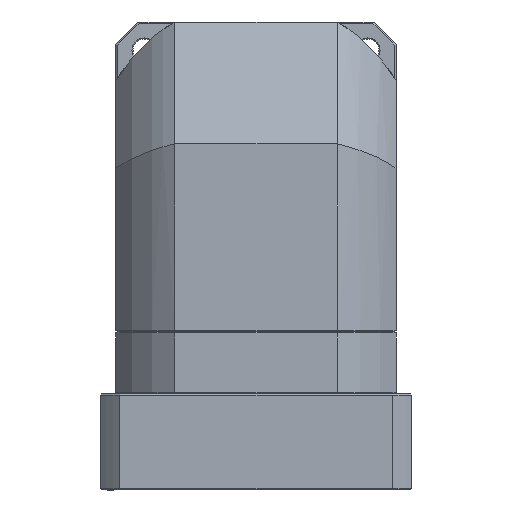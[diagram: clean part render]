
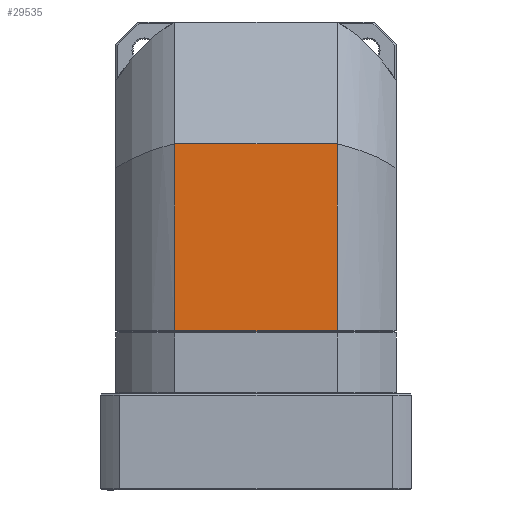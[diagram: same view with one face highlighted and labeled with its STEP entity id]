
A CAD part, front view. The second image highlights one B-rep face of the part: STEP entity #29535.
In plain terms, the highlighted planar face has unit normal (0, 1, 0).
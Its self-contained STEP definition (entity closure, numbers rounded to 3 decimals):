
#8407 = DIRECTION ( 'NONE',  ( 0., 0., -1. ) ) ;
#12672 = CARTESIAN_POINT ( 'NONE',  ( 0., -261.111, 7.5 ) ) ;
#14298 = EDGE_CURVE ( 'NONE', #61374, #15156, #84293, .T. ) ;
#15156 = VERTEX_POINT ( 'NONE', #56697 ) ;
#15171 = DIRECTION ( 'NONE',  ( 0., -1., 0. ) ) ;
#17880 = CARTESIAN_POINT ( 'NONE',  ( 33.407, -261.111, 7.5 ) ) ;
#18615 = ORIENTED_EDGE ( 'NONE', *, *, #53029, .T. ) ;
#21974 = EDGE_CURVE ( 'NONE', #99195, #91696, #86371, .T. ) ;
#25571 = CARTESIAN_POINT ( 'NONE',  ( 33.407, -261.111, -69.2 ) ) ;
#25607 = VECTOR ( 'NONE', #56122, 1000. ) ;
#29535 = ADVANCED_FACE ( 'NONE', ( #68342 ), #78190, .F. ) ;
#39132 = CARTESIAN_POINT ( 'NONE',  ( 33.407, -261.111, -30.62 ) ) ;
#40859 = CARTESIAN_POINT ( 'NONE',  ( -33.407, -261.111, 7.5 ) ) ;
#43420 = VECTOR ( 'NONE', #44181, 1000. ) ;
#44181 = DIRECTION ( 'NONE',  ( 1., 0., 0. ) ) ;
#44916 = EDGE_LOOP ( 'NONE', ( #77649, #91659, #95550, #18615 ) ) ;
#53029 = EDGE_CURVE ( 'NONE', #61374, #99195, #85513, .T. ) ;
#53313 = VECTOR ( 'NONE', #8407, 1000. ) ;
#56122 = DIRECTION ( 'NONE',  ( 0., 0., -1. ) ) ;
#56697 = CARTESIAN_POINT ( 'NONE',  ( -33.407, -261.111, -69.2 ) ) ;
#61374 = VERTEX_POINT ( 'NONE', #40859 ) ;
#62617 = CARTESIAN_POINT ( 'NONE',  ( -33.407, -261.111, -69.2 ) ) ;
#66461 = VECTOR ( 'NONE', #96949, 1000. ) ;
#67060 = EDGE_CURVE ( 'NONE', #15156, #91696, #89990, .T. ) ;
#68342 = FACE_OUTER_BOUND ( 'NONE', #44916, .T. ) ;
#70554 = DIRECTION ( 'NONE',  ( 1., 0., 0. ) ) ;
#72682 = AXIS2_PLACEMENT_3D ( 'NONE', #62617, #15171, #70554 ) ;
#77649 = ORIENTED_EDGE ( 'NONE', *, *, #21974, .T. ) ;
#78190 = PLANE ( 'NONE',  #72682 ) ;
#84293 = LINE ( 'NONE', #87324, #53313 ) ;
#85513 = LINE ( 'NONE', #12672, #43420 ) ;
#86371 = LINE ( 'NONE', #39132, #25607 ) ;
#87324 = CARTESIAN_POINT ( 'NONE',  ( -33.407, -261.111, -30.85 ) ) ;
#89026 = CARTESIAN_POINT ( 'NONE',  ( 0., -261.111, -69.2 ) ) ;
#89990 = LINE ( 'NONE', #89026, #66461 ) ;
#91659 = ORIENTED_EDGE ( 'NONE', *, *, #67060, .F. ) ;
#91696 = VERTEX_POINT ( 'NONE', #25571 ) ;
#95550 = ORIENTED_EDGE ( 'NONE', *, *, #14298, .F. ) ;
#96949 = DIRECTION ( 'NONE',  ( 1., 0., 0. ) ) ;
#99195 = VERTEX_POINT ( 'NONE', #17880 ) ;
